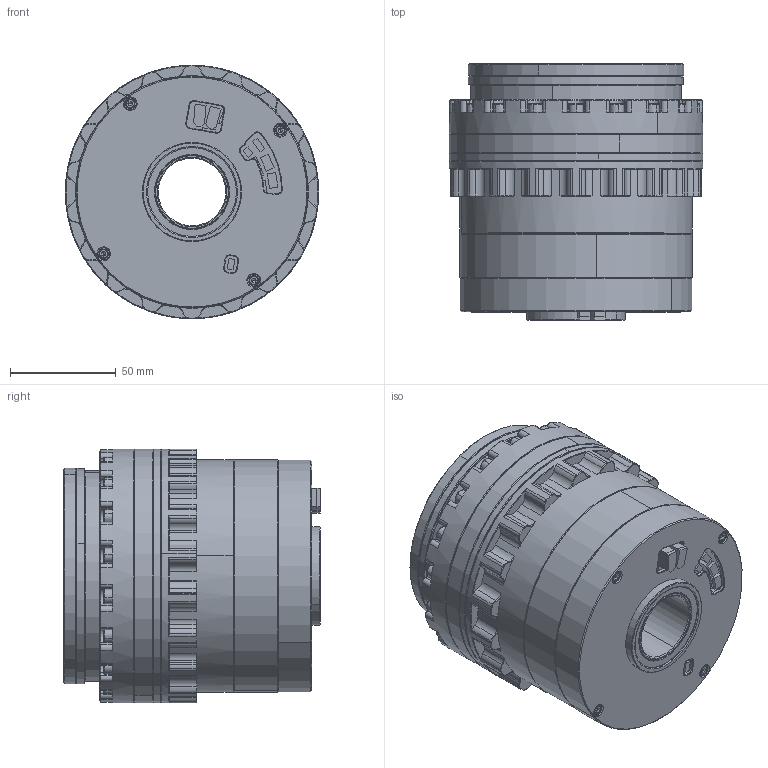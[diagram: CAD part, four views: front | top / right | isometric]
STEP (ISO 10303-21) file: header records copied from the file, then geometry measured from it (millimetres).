
FILE_DESCRIPTION (( 'STEP AP203' ), '1' );
FILE_NAME ('CRA-RI100-120-PRO-2-xxx-B-B0.STEP', '2024-12-04T09:27:13', ( '' ), ( '' ), 'SwSTEP 2.0', 'SolidWorks 2021', '' );
FILE_SCHEMA (( 'CONFIG_CONTROL_DESIGN' ));
Length unit declared in the file: millimetre
Products named in the file (1): CRA-RI100-120-PRO-2-xxx-B-B0
Bounding box: 120 x 121.5 x 120 mm (x, y, z)
Surface area: 117422.6 mm2 (no closed solid volume)
Topology: 0 solids, 91 shells, 1452 faces, 4468 edges, 3048 vertices
Faces by surface type: plane 513, cone 456, cylinder 431, torus 52
Entity records: 52203 total; most frequent: CARTESIAN_POINT 11322, DIRECTION 9158, ORIENTED_EDGE 7502, EDGE_CURVE 4448, AXIS2_PLACEMENT_3D 3430, VERTEX_POINT 3048, LINE 2298, VECTOR 2298
